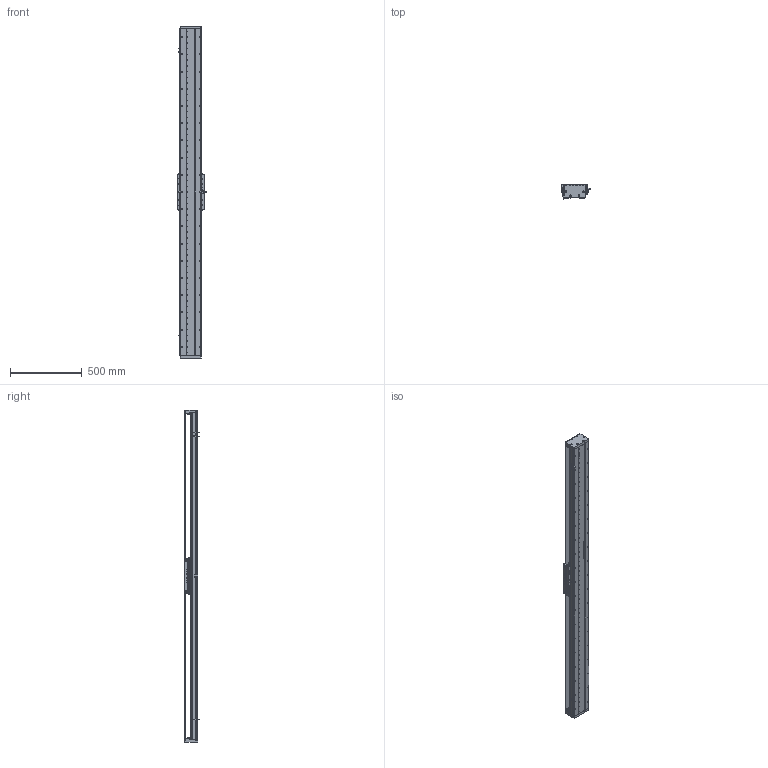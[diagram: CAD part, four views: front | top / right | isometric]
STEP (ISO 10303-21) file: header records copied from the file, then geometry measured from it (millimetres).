
FILE_DESCRIPTION (( 'STEP AP203' ), '1' );
FILE_NAME ('DA-C145-C3-T1980-C010-0.2 眻盄萇儂.STEP', '2025-08-14T01:30:01', ( '' ), ( '' ), 'SwSTEP 2.0', 'SolidWorks 2019', '' );
FILE_SCHEMA (( 'CONFIG_CONTROL_DESIGN' ));
Length unit declared in the file: millimetre
Products named in the file (32): TAY01-M8; DA-C145-C3-T1980-C010-0.2 眻盄萇儂; 葩璃 鞠褒情蹟譫 M3^DA-C145-C3-T-C010-0.2; 复件 内六角平端紧定螺钉 GB.T77-2000 M5×10^CU145-W 滚珠滑台; 复件 纯铜油杯 6x6mm^CU145-W 滚珠滑台; 葩璃 XD-U-02L 棠掑喜^DA-C145-C3-T-C010-0.2; 葩璃 DA95-GT-T-00^IU-CU145-L 菁釱絳寢; CU145-W-00 珨极趙賑雄怢啣; 复件 半圆头内六角螺钉 M3×6^CU145-W 滚珠滑台; 葩璃 CKMA01-W060-TRL^DA-C145-C3-T-C010-0.2; 复件 DA95-HK-GT-00 滑块钢轨^CU145-W-00 一体化滑动台板; CU145-W 幗紩賑怢; 葩璃 DA95-HXJ-00 遣喳砎蝶^DA-C145-C3-T-C010-0.2; 66245-CU145-HT-W-00 賑雄怢啣(3D芞祧)(00); 葩璃 PM-T45^DA-C145-C3-T-C010-0.2; 葩璃 DA145-C3-DP-A-00 菜えA^CU145-W 幗紩賑怢; 复件 DA145-GYP-00 光电感应片^DA-C145-C3-T-C010-0.2; 复件 DA95-DB-00  挡板^CU145-W 滚珠滑台; 葩璃 CU145 詩湍郪璃^DA-C145-C3-T-C010-0.2; 复件 DA145-C3-DK-00 挡块^CU145-W 滚珠滑台; 复件 DA95-MFP-01 密封片^CU145-W 滚珠滑台; 复件 DA145-DG 钢带端盖^复件 CU145 钢带组件_DA-C145-C3-T-C010-0.2; 葩璃 DA145-C3-DP-B-00 菜えB^CU145-W 幗紩賑怢; 复件 DA146 钢带垫块^复件 CU145 钢带组件_DA-C145-C3-T-C010-0.2; 葩璃 DMA-010-0.2 黍杅芛^DA-C145-C3-T-C010-0.2; 复件 DA145-C3-YB-A-00 压板A^CU145-W 滚珠滑台; 复件 DA145 钢带^复件 CU145 钢带组件_DA-C145-C3-T-C010-0.2; 复件 DA146 钢带拉块^复件 CU145 钢带组件_DA-C145-C3-T-C010-0.2; IU-CU145-L 菁釱絳寢; 复件 DA145-C3-YB-B-00 压板B^CU145-W 滚珠滑台; IU-CU145-L-00 菁釱(L2280); 葩璃 CKM03-W060-C1C2-TP-0.2^DA-C145-C3-T-C010-0.2
Assembly tree (103 placements, depth 4):
  DA-C145-C3-T1980-C010-0.2 眻盄萇儂
    IU-CU145-L 菁釱絳寢
      IU-CU145-L-00 菁釱(L2280)
      葩璃 DA95-GT-T-00^IU-CU145-L 菁釱絳寢  x4
    葩璃 CU145 詩湍郪璃^DA-C145-C3-T-C010-0.2
      复件 DA145-DG 钢带端盖^复件 CU145 钢带组件_DA-C145-C3-T-C010-0.2  x2
      复件 DA146 钢带拉块^复件 CU145 钢带组件_DA-C145-C3-T-C010-0.2  x2
      复件 DA146 钢带垫块^复件 CU145 钢带组件_DA-C145-C3-T-C010-0.2  x2
      复件 DA145 钢带^复件 CU145 钢带组件_DA-C145-C3-T-C010-0.2
    CU145-W 幗紩賑怢
      CU145-W-00 珨极趙賑雄怢啣
        66245-CU145-HT-W-00 賑雄怢啣(3D芞祧)(00)
        复件 DA95-HK-GT-00 滑块钢轨^CU145-W-00 一体化滑动台板  x8
      复件 DA95-MFP-01 密封片^CU145-W 滚珠滑台  x8
      复件 DA95-DB-00  挡板^CU145-W 滚珠滑台  x8
      复件 内六角平端紧定螺钉 GB.T77-2000 M5×10^CU145-W 滚珠滑台  x4
      复件 纯铜油杯 6x6mm^CU145-W 滚珠滑台  x4
      复件 半圆头内六角螺钉 M3×6^CU145-W 滚珠滑台  x16
      复件 DA145-C3-DK-00 挡块^CU145-W 滚珠滑台  x4
      葩璃 DA145-C3-DP-B-00 菜えB^CU145-W 幗紩賑怢  x2
      复件 DA145-C3-YB-B-00 压板B^CU145-W 滚珠滑台  x2
      葩璃 DA145-C3-DP-A-00 菜えA^CU145-W 幗紩賑怢  x3
      复件 DA145-C3-YB-A-00 压板A^CU145-W 滚珠滑台  x3
      TAY01-M8  x4
    葩璃 CKMA01-W060-TRL^DA-C145-C3-T-C010-0.2
    葩璃 PM-T45^DA-C145-C3-T-C010-0.2  x3
    葩璃 XD-U-02L 棠掑喜^DA-C145-C3-T-C010-0.2
    葩璃 DA95-HXJ-00 遣喳砎蝶^DA-C145-C3-T-C010-0.2  x4
    复件 DA145-GYP-00 光电感应片^DA-C145-C3-T-C010-0.2
    葩璃 DMA-010-0.2 黍杅芛^DA-C145-C3-T-C010-0.2
    葩璃 CKM03-W060-C1C2-TP-0.2^DA-C145-C3-T-C010-0.2
    葩璃 鞠褒情蹟譫 M3^DA-C145-C3-T-C010-0.2  x8
Bounding box: 203.5 x 108.45 x 2316 mm (x, y, z)
Volume: 11201155.2 mm3; surface area: 3694290.7 mm2
Topology: 99 solids, 131 shells, 4528 faces, 12746 edges, 7962 vertices
Faces by surface type: cylinder 2170, plane 1590, cone 690, torus 74, sphere 4
Entity records: 120164 total; most frequent: CARTESIAN_POINT 34764, ORIENTED_EDGE 17012, DIRECTION 16425, EDGE_CURVE 8506, AXIS2_PLACEMENT_3D 6166, VERTEX_POINT 5501, LINE 4093, VECTOR 4093
